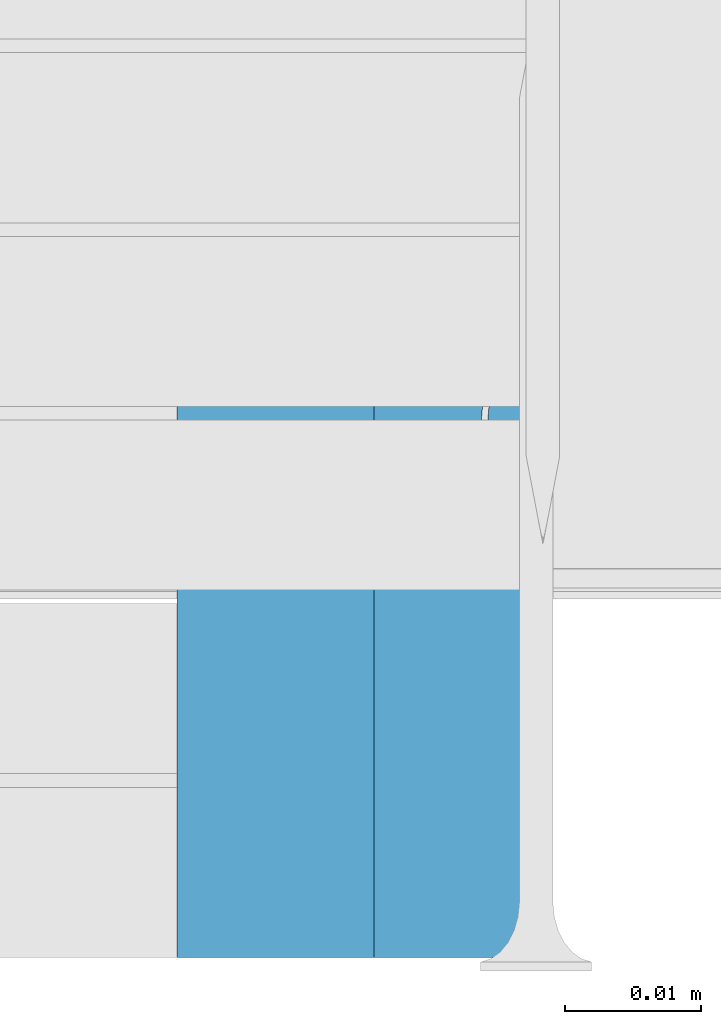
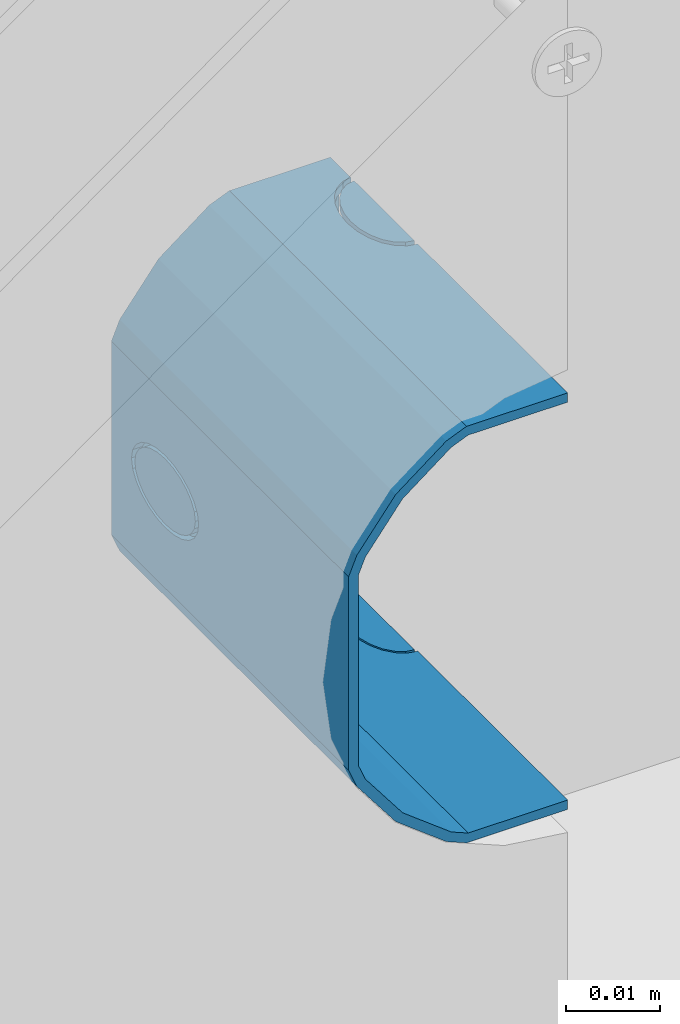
# One storey, part 26 of 32: 1 wall.
"""IFC2X3 building model written with IfcOpenShell, lengths in millimetres."""

from ifc_helpers import new_model, entity, si_unit, converted_unit, direction, frame, origin, origin_with_axes, place, context, project, spatial, faceted_brep, element, save


model = new_model("IFC2X3")

# Units and contexts
model_context = context("Model", 3, precision=1e-05, world=origin(), true_north=direction((0.0, 1.0, 0.0)))
ifc_project = project(units=[si_unit("LENGTHUNIT", "METRE", prefix="MILLI"), si_unit("AREAUNIT", "SQUARE_METRE"), si_unit("VOLUMEUNIT", "CUBIC_METRE"), converted_unit("PLANEANGLEUNIT", "DEGREE", entity("IfcPlaneAngleMeasure", 0.01745), si_unit("PLANEANGLEUNIT", "RADIAN"), dimensions=[0, 0, 0, 0, 0, 0, 0]), si_unit("SOLIDANGLEUNIT", "STERADIAN"), si_unit("MASSUNIT", "GRAM"), si_unit("TIMEUNIT", "SECOND"), si_unit("THERMODYNAMICTEMPERATUREUNIT", "DEGREE_CELSIUS"), si_unit("LUMINOUSINTENSITYUNIT", "LUMEN")], contexts=[model_context])

# Site, building, storey
site_placement = place(None, origin_with_axes())
site = spatial("IfcSite", under=ifc_project, at=site_placement, Name="Default Site", CompositionType="ELEMENT")
building_placement = place(site_placement, origin_with_axes())
building = spatial("IfcBuilding", under=site, at=building_placement, Name="Default Building", CompositionType="ELEMENT")
storey_placement = place(building_placement, origin_with_axes())
storey = spatial("IfcBuildingStorey", under=building, at=storey_placement, Name="Default Building Storey", CompositionType="ELEMENT", Elevation=0.0)

# Wall
wall_placement = place(storey_placement, frame((3160.241892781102, 1920.791292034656, 275.3970688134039), z_axis=(0.0, 0.0, 1.0), x_axis=(1.0, 0.0, 0.0)))
element("IfcWall", 1, at=wall_placement, inside=storey, Name="PUSZKA", context=model_context, shape_type="Brep", body=[
    faceted_brep([(1.443822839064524e-11, 42.19098750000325, 23.34645532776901), (1.443822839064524e-11, 43.5225546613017, 24.01689326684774), (0.9375000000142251, 43.5225546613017, 24.01689326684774), (0.9375000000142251, 42.19098750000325, 23.34645532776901), (26.88214114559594, 46.09640298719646, 0.0), (26.88214114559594, 50.40630000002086, 0.0), (26.88214114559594, 50.40630000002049, 19.51551641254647), (26.88214114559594, 48.57750000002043, 19.51551641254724), (26.88214114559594, 48.57750000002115, 1.200000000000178), (26.88214114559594, 46.09640298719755, 1.200000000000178), (26.88214114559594, 46.09640298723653, 52.79999999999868), (26.88214114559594, 48.57750000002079, 52.79999999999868), (26.88214114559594, 48.57750000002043, 34.48448358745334), (26.88214114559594, 50.40630000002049, 34.48448358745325), (26.88214114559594, 50.40630000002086, 53.99999999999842), (26.88214114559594, 46.09640298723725, 53.99999999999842), (1.443822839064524e-11, 35.76161250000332, 23.34645532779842), (1.443822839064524e-11, 37.31225530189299, 22.92500042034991), (0.9375000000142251, 37.31225530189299, 22.92500042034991), (0.9375000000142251, 35.76161250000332, 23.34645532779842), (26.88214114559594, 48.97755000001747, 19.98426641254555), (26.88214114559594, 50.40630000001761, 19.98426641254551), (26.88214114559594, 50.40630000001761, 34.01573358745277), (26.88214114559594, 48.97755000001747, 34.01573358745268), (26.88214114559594, 31.85619701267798, 53.99999999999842), (26.88214114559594, 2.093543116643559e-11, 53.99999999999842), (26.88214114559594, 2.093543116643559e-11, 52.79999999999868), (26.88214114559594, 31.85619701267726, 52.79999999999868), (26.88214114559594, 31.85619701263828, 1.200000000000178), (26.88214114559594, 2.093543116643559e-11, 1.200000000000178), (26.88214114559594, 2.093543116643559e-11, 0.0), (26.88214114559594, 31.8561970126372, 0.0), (22.78125000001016, 38.97629999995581, 0.9374999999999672), (22.92500042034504, 40.6403446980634, 0.9374999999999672), (22.92500042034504, 40.6403446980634, 0.0), (22.78125000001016, 38.97629999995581, 0.0), (26.88214114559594, 45.38202798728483, 0.9374999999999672), (26.88214114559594, 32.57057201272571, 0.9374999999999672), (26.88214114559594, 32.57057201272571, 0.0), (26.88214114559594, 45.38202798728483, 0.0), (1.443822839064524e-11, 37.31225530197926, 31.07499957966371), (1.443822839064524e-11, 38.97630000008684, 31.21874999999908), (1.443822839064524e-11, 40.64034469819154, 31.07499957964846), (1.443822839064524e-11, 42.19098750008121, 30.65354467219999), (1.443822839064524e-11, 43.52255466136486, 29.98310673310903), (1.443822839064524e-11, 44.54430208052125, 29.10937499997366), (1.443822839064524e-11, 45.18659935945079, 28.09189284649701), (1.443822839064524e-11, 45.40567500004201, 26.99999999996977), (1.443822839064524e-11, 45.18659935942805, 25.90810715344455), (1.443822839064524e-11, 44.54430208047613, 24.89062499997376), (1.443822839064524e-11, 40.64034469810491, 22.9250004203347), (1.443822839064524e-11, 38.97629999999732, 22.78124999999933), (1.443822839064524e-11, 34.4300453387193, 24.01689326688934), (1.443822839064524e-11, 33.40829791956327, 24.89062500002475), (1.443822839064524e-11, 32.76600064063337, 25.9081071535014), (1.443822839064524e-11, 32.54692500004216, 27.0000000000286), (1.443822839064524e-11, 32.76600064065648, 28.09189284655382), (1.443822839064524e-11, 33.40829791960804, 29.1093750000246), (1.443822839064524e-11, 34.43004533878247, 29.98310673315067), (1.443822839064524e-11, 35.76161250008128, 30.6535446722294), (0.9375000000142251, 33.40829791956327, 24.89062500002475), (0.9375000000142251, 32.76600064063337, 25.9081071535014), (26.88214114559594, 32.57057201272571, 53.06250000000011), (26.88214114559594, 45.38202798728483, 53.06250000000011), (26.88214114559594, 45.38202798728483, 54.00000000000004), (26.88214114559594, 32.57057201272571, 54.00000000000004), (23.34645532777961, 42.19098749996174, 0.9374999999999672), (24.01689326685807, 43.52255466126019, 0.9374999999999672), (24.01689326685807, 43.52255466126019, 0.0), (23.34645532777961, 42.19098749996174, 0.0), (1.263344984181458e-11, 38.97629999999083, 31.68749999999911), (1.200000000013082, 38.9762999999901, 31.68749999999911), (1.200000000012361, 37.12736144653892, 31.52777731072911), (1.227249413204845e-11, 37.12736144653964, 31.52777731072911), (22.78125000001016, 38.97629999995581, 54.00000000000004), (22.92500042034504, 40.6403446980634, 54.00000000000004), (22.92500042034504, 40.6403446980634, 53.06250000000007), (22.78125000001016, 38.97629999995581, 53.06250000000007), (0.9375000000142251, 34.43004533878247, 29.98310673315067), (0.9375000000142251, 35.76161250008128, 30.6535446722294), (1.200000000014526, 44.02769406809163, 30.31456303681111), (1.443822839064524e-11, 44.02769406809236, 30.31456303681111), (1.479918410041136e-11, 45.16296897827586, 29.34374999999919), (1.200000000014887, 45.16296897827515, 29.34374999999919), (25.90810715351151, 32.76600064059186, 0.9374999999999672), (25.90810715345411, 45.18659935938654, 0.9374999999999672), (24.89062499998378, 44.54430208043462, 0.9374999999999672), (22.92500042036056, 37.31225530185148, 0.9374999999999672), (23.34645532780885, 35.76161249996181, 0.9374999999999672), (24.01689326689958, 34.43004533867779, 0.9374999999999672), (24.89062500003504, 33.40829791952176, 0.9374999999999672), (0.9375000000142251, 40.64034469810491, 22.9250004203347), (0.9375000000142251, 38.97629999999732, 22.78124999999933), (25.90810715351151, 32.76600064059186, 0.0), (0.9375000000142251, 45.18659935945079, 28.09189284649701), (0.9375000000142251, 45.40567500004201, 26.99999999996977), (0.9375000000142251, 40.64034469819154, 31.07499957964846), (0.9375000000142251, 42.19098750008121, 30.65354467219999), (1.479918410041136e-11, 45.16296897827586, 24.65624999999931), (1.200000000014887, 45.1629689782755, 24.65624999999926), (1.200000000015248, 45.87663262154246, 25.78678572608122), (1.479918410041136e-11, 45.87663262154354, 25.78678572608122), (0.9375000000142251, 33.40829791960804, 29.1093750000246), (0.9375000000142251, 44.54430208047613, 24.89062499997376), (0.9375000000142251, 32.54692500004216, 27.0000000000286), (24.89062499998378, 44.54430208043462, 0.0), (0.9375000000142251, 32.76600064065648, 28.09189284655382), (25.90810715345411, 45.18659935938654, 0.0), (0.9375000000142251, 37.31225530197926, 31.07499957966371), (0.9375000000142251, 38.97630000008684, 31.21874999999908), (23.34645532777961, 42.19098749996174, 54.00000000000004), (23.34645532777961, 42.19098749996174, 53.06250000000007), (0.9375000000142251, 34.4300453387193, 24.01689326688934), (23.34645532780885, 35.76161249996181, 0.0), (24.01689326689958, 34.43004533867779, 0.0), (24.89062500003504, 33.40829791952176, 0.0), (22.92500042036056, 37.31225530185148, 0.0), (25.78678572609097, 32.0759673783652, 1.200000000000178), (25.78678572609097, 32.07596737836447, 0.0), (1.200000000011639, 35.40442499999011, 31.05949408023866), (1.155058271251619e-11, 35.40442499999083, 31.05949408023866), (1.046771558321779e-11, 32.07596737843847, 25.78678572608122), (1.200000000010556, 32.07596737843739, 25.78678572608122), (1.200000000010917, 32.78963102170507, 24.65624999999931), (1.082867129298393e-11, 32.78963102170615, 24.65624999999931), (1.082867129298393e-11, 32.78963102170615, 29.34374999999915), (1.200000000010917, 32.78963102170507, 29.34374999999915), (1.200000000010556, 32.07596737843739, 28.21321427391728), (1.046771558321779e-11, 32.07596737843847, 28.21321427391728), (24.65625000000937, 32.78963102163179, 0.0), (24.65625000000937, 32.78963102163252, 1.200000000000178), (25.78678572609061, 45.87663262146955, 0.0), (25.78678572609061, 45.87663262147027, 1.200000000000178), (25.90810715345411, 45.18659935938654, 54.00000000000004), (25.90810715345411, 45.18659935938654, 53.06250000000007), (22.94050591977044, 42.54817499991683, 0.0), (22.94050591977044, 42.54817499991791, 1.200000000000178), (22.47222268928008, 40.82523855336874, 1.200000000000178), (22.47222268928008, 40.82523855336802, 0.0), (0.9375000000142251, 45.18659935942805, 25.90810715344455), (22.31250000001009, 38.97629999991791, 1.200000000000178), (22.31250000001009, 38.97629999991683, 0.0), (0.9375000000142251, 44.54430208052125, 29.10937499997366), (0.9375000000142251, 43.52255466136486, 29.98310673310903), (1.371631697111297e-11, 42.54817499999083, 31.05949408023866), (1.200000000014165, 42.5481749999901, 31.05949408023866), (1.200000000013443, 40.8252385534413, 31.52777731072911), (1.335536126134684e-11, 40.82523855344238, 31.52777731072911), (24.89062499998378, 44.54430208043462, 54.00000000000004), (24.89062499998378, 44.54430208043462, 53.06250000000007), (24.01689326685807, 43.52255466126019, 54.00000000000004), (24.01689326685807, 43.52255466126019, 53.06250000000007), (1.118962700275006e-11, 33.92490593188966, 30.31456303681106), (1.200000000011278, 33.92490593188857, 30.31456303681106), (1.335536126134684e-11, 40.82523855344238, 22.47222268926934), (1.200000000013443, 40.8252385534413, 22.47222268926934), (1.200000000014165, 42.5481749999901, 22.94050591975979), (1.371631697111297e-11, 42.54817499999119, 22.94050591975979), (24.89062500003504, 33.40829791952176, 54.00000000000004), (24.01689326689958, 34.43004533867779, 54.00000000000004), (24.01689326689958, 34.43004533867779, 53.06250000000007), (24.89062500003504, 33.40829791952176, 53.06250000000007), (1.155058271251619e-11, 35.40442499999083, 22.94050591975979), (1.200000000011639, 35.40442499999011, 22.94050591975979), (1.200000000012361, 37.12736144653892, 22.47222268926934), (1.227249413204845e-11, 37.12736144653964, 22.47222268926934), (25.90810715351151, 32.76600064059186, 54.00000000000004), (22.92500042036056, 37.31225530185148, 54.00000000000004), (23.34645532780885, 35.76161249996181, 54.00000000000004), (1.200000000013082, 38.9762999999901, 22.31249999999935), (1.263344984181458e-11, 38.97629999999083, 22.31249999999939), (1.479918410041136e-11, 45.87663262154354, 28.21321427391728), (1.200000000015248, 45.87663262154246, 28.21321427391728), (22.92500042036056, 37.31225530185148, 53.06250000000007), (23.34645532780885, 35.76161249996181, 53.06250000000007), (1.443822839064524e-11, 44.02769406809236, 23.6854369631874), (1.200000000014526, 44.02769406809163, 23.6854369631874), (24.65625000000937, 45.16296897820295, 1.200000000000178), (24.65625000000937, 45.16296897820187, 0.0), (1.200000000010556, 31.8325499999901, 26.99999999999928), (1.046771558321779e-11, 31.83254999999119, 26.99999999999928), (22.47222268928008, 37.12736144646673, 1.200000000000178), (22.47222268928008, 37.12736144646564, 0.0), (1.200000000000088, 4.006608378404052e-11, 39.32747401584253), (1.200000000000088, 4.006608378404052e-11, 14.67252598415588), (1.200000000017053, 48.57750000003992, 14.67252598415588), (1.200000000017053, 48.57750000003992, 39.32747401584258), (1.200000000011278, 33.92490593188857, 23.6854369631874), (1.200000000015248, 46.1200499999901, 26.99999999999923), (1.479918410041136e-11, 46.12004999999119, 26.99999999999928), (21.69669914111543, 48.5775000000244, 21.69669914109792), (21.69669914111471, 50.40630000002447, 21.69669914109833), (20.50480947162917, 50.40630000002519, 23.24999999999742), (20.50480947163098, 48.57750000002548, 23.24999999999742), (22.94050591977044, 42.5481749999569, 52.79999999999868), (22.94050591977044, 42.54817499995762, 53.99999999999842), (22.47222268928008, 40.82523855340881, 53.99999999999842), (22.47222268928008, 40.82523855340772, 52.79999999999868), (21.69669914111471, 50.40630000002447, 32.30330085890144), (21.6966991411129, 48.5775000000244, 32.30330085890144), (20.50480947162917, 48.57750000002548, 30.75000000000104), (20.50480947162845, 50.40630000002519, 30.75000000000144), (25.05885716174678, 50.40630000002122, 34.24444369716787), (25.05885716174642, 48.57750000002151, 34.24444369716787), (5.786796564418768, 50.40630000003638, 5.786796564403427), (11.76442622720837, 50.40630000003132, 1.200000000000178), (12.00000000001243, 50.40630000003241, 1.019237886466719), (11.99999999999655, 3.248601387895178e-11, 1.019237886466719), (11.76442622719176, 3.140314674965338e-11, 1.200000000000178), (5.786796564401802, 3.645652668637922e-11, 5.786796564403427), (14.67252598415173, 3.068123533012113e-11, 52.79999999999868), (14.46065792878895, 2.995932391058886e-11, 53.99999999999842), (11.99999999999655, 3.248601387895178e-11, 52.9807621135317), (11.76442622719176, 3.140314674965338e-11, 52.79999999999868), (5.786796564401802, 3.645652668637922e-11, 48.21320343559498), (1.200000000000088, 4.006608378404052e-11, 42.23557377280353), (1.01923788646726, 3.97051280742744e-11, 41.99999999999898), (0.0, 4.150990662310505e-11, 39.53934207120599), (0.0, 4.150990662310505e-11, 14.46065792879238), (1.01923788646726, 3.97051280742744e-11, 11.99999999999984), (1.200000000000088, 4.006608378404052e-11, 11.76442622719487), (14.46065792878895, 2.995932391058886e-11, 0.0), (14.67252598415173, 3.068123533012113e-11, 1.200000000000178), (12.59999999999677, 3.104219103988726e-11, 2.058468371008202), (6.635324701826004, 3.573461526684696e-11, 6.635324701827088), (2.058468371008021, 3.934417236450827e-11, 12.59999999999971), (2.058468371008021, 3.934417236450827e-11, 41.39999999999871), (6.635324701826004, 3.573461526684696e-11, 47.36467529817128), (12.59999999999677, 3.104219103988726e-11, 51.94153162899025), (22.31250000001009, 38.97629999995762, 53.99999999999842), (22.31250000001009, 38.97629999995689, 52.79999999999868), (6.635324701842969, 48.57750000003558, 47.36467529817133), (12.60000000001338, 48.57750000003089, 51.94153162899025), (23.25000000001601, 50.40630000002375, 20.50480947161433), (23.2500000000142, 48.57750000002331, 20.50480947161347), (25.05885716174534, 48.57750000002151, 19.75555630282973), (25.05885716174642, 50.40630000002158, 19.75555630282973), (6.635324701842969, 48.57750000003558, 6.635324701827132), (2.058468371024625, 48.57750000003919, 12.59999999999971), (23.68543696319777, 44.027694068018, 0.0), (23.68543696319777, 44.02769406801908, 1.200000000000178), (22.94050591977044, 35.40442499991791, 1.200000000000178), (22.94050591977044, 35.40442499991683, 0.0), (1.019237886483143, 50.40630000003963, 11.99999999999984), (1.200000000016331, 50.40630000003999, 11.76442622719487), (12.60000000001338, 48.57750000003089, 2.058468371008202), (2.058468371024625, 48.57750000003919, 41.39999999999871), (23.25000000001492, 48.57750000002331, 33.49519052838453), (23.25000000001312, 50.40630000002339, 33.4951905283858), (24.65625000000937, 32.7896310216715, 52.79999999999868), (24.65625000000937, 32.78963102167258, 53.99999999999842), (25.78678572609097, 32.0759673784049, 53.99999999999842), (25.78678572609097, 32.07596737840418, 52.79999999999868), (14.67252598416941, 48.57750000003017, 52.79999999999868), (23.68543696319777, 33.92490593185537, 52.79999999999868), (23.68543696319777, 33.92490593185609, 53.99999999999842), (19.75555630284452, 50.40630000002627, 25.05885716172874), (19.75555630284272, 48.57750000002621, 25.05885716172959), (14.46065792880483, 50.40630000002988, 0.0), (23.68543696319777, 33.92490593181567, 0.0), (24.65625000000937, 45.16296897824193, 52.79999999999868), (24.65625000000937, 45.16296897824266, 53.99999999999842), (23.68543696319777, 44.02769406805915, 53.99999999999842), (23.68543696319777, 44.02769406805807, 52.79999999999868), (19.75555630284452, 48.57750000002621, 28.94114283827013), (19.75555630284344, 50.40630000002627, 28.94114283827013), (25.90810715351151, 32.76600064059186, 53.06250000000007), (19.50000000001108, 50.40630000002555, 26.9999999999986), (19.50000000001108, 48.57750000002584, 26.9999999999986), (25.78678572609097, 45.87663262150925, 52.79999999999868), (22.47222268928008, 37.12736144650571, 52.79999999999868), (22.94050591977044, 35.40442499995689, 52.79999999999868), (1.118962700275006e-11, 33.92490593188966, 23.6854369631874), (25.78678572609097, 45.87663262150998, 53.99999999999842), (14.67252598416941, 48.57750000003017, 1.200000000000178), (1.696491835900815e-11, 50.40630000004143, 39.53934207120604), (1.696491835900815e-11, 50.40630000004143, 14.46065792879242), (22.47222268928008, 37.12736144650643, 53.99999999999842), (22.94050591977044, 35.40442499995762, 53.99999999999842), (1.019237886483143, 50.40630000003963, 41.99999999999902), (1.200000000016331, 50.40630000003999, 42.23557377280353), (5.786796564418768, 50.40630000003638, 48.21320343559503), (11.76442622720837, 50.40630000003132, 52.79999999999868), (12.00000000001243, 50.40630000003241, 52.98076211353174), (14.46065792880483, 50.40630000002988, 53.99999999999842), (23.68543696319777, 33.92490593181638, 1.200000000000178), (22.02815544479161, 48.97755000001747, 22.02815544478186), (20.91075887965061, 48.97755000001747, 23.48437499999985), (20.91075887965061, 50.40630000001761, 23.48437499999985), (22.02815544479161, 50.40630000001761, 22.02815544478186), (20.20833403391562, 48.97755000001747, 28.81982141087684), (20.91075887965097, 48.97755000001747, 30.51562499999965), (20.91075887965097, 50.40630000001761, 30.51562499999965), (20.20833403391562, 50.40630000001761, 28.81982141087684), (19.96875000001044, 48.97755000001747, 26.99999999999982), (19.96875000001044, 50.40630000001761, 26.99999999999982), (25.18017858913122, 48.97755000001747, 20.20833403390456), (23.48437500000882, 48.97755000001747, 20.91075887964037), (23.48437500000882, 50.40630000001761, 20.91075887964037), (25.18017858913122, 50.40630000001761, 20.20833403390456), (22.02815544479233, 48.97755000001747, 31.97184455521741), (23.48437500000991, 48.97755000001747, 33.08924112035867), (23.48437500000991, 50.40630000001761, 33.08924112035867), (22.02815544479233, 50.40630000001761, 31.97184455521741), (25.18017858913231, 50.40630000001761, 33.79166596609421), (20.20833403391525, 50.40630000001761, 25.18017858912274), (20.20833403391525, 48.97755000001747, 25.18017858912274), (25.18017858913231, 48.97755000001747, 33.79166596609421)], [[[0, 1, 2, 3]], [[4, 5, 6, 7, 8, 9]], [[10, 11, 12, 13, 14, 15]], [[16, 17, 18, 19]], [[20, 21, 22, 23]], [[24, 25, 26, 27]], [[28, 29, 30, 31]], [[32, 33, 34, 35]], [[36, 37, 38, 39]], [[40, 41, 42, 43, 44, 45, 46, 47, 48, 49, 1, 0, 50, 51, 17, 16, 52, 53, 54, 55, 56, 57, 58, 59]], [[54, 53, 60, 61]], [[62, 63, 64, 65]], [[66, 67, 68, 69]], [[70, 71, 72, 73]], [[74, 75, 76, 77]], [[59, 58, 78, 79]], [[80, 81, 82, 83]], [[84, 37, 36, 85, 86, 67, 66, 33, 32, 87, 88, 89, 90]], [[51, 50, 91, 92]], [[93, 38, 37, 84]], [[47, 46, 94, 95]], [[43, 42, 96, 97]], [[98, 99, 100, 101]], [[58, 57, 102, 78]], [[1, 49, 103, 2]], [[55, 54, 61, 104]], [[67, 86, 105, 68]], [[56, 55, 104, 106]], [[86, 85, 107, 105]], [[41, 40, 108, 109]], [[85, 36, 39, 107]], [[75, 110, 111, 76]], [[52, 16, 19, 112]], [[89, 88, 113, 114]], [[107, 39, 38, 93, 115, 114, 113, 116, 35, 34, 69, 68, 105]], [[117, 28, 31, 118]], [[73, 72, 119, 120]], [[121, 122, 123, 124]], [[87, 32, 35, 116]], [[125, 126, 127, 128]], [[117, 118, 129, 130]], [[131, 4, 9, 132]], [[133, 64, 63, 134]], [[84, 90, 115, 93]], [[17, 51, 92, 18]], [[135, 136, 137, 138]], [[48, 47, 95, 139]], [[140, 141, 138, 137]], [[46, 45, 142, 94]], [[109, 108, 79, 78, 102, 106, 104, 61, 60, 112, 19, 18, 92, 91, 3, 2, 103, 139, 95, 94, 142, 143, 97, 96]], [[144, 145, 146, 147]], [[148, 133, 134, 149]], [[110, 150, 151, 111]], [[152, 153, 126, 125]], [[150, 148, 149, 151]], [[154, 155, 156, 157]], [[158, 159, 160, 161]], [[53, 52, 112, 60]], [[162, 163, 164, 165]], [[90, 89, 114, 115]], [[49, 48, 139, 103]], [[42, 41, 109, 96]], [[40, 59, 79, 108]], [[45, 44, 143, 142]], [[166, 65, 64, 133, 148, 150, 110, 75, 74, 167, 168, 159, 158]], [[44, 43, 97, 143]], [[88, 87, 116, 113]], [[33, 66, 69, 34]], [[165, 164, 169, 170]], [[147, 146, 71, 70]], [[83, 82, 171, 172]], [[168, 167, 173, 174]], [[175, 176, 99, 98]], [[50, 0, 3, 91]], [[57, 56, 106, 102]], [[131, 132, 177, 178]], [[128, 127, 179, 180]], [[180, 179, 122, 121]], [[181, 182, 141, 140]], [[183, 184, 185, 186], [163, 187, 123, 122, 179, 127, 126, 153, 119, 72, 71, 146, 145, 80, 83, 172, 188, 100, 99, 176, 156, 155, 169, 164]], [[188, 189, 101, 100]], [[190, 191, 192, 193]], [[194, 195, 196, 197]], [[198, 199, 200, 201]], [[202, 13, 12, 203]], [[204, 205, 206, 207, 208, 209]], [[210, 26, 25, 211, 212, 213, 214, 215, 216, 217, 218, 219, 220, 209, 208, 207, 221, 30, 29, 222, 223, 224, 225, 184, 183, 226, 227, 228]], [[197, 196, 229, 230]], [[228, 227, 231, 232]], [[233, 234, 235, 236]], [[225, 224, 237, 238]], [[136, 135, 239, 240]], [[241, 242, 182, 181]], [[184, 225, 238, 185]], [[243, 244, 204, 209, 220, 219]], [[224, 223, 245, 237]], [[157, 156, 176, 175]], [[227, 226, 246, 231]], [[159, 168, 174, 160]], [[172, 171, 189, 188]], [[202, 203, 247, 248]], [[249, 250, 251, 252]], [[210, 228, 232, 253]], [[254, 255, 250, 249]], [[256, 257, 193, 192]], [[258, 5, 4, 131, 178, 239, 135, 138, 141, 182, 242, 259, 129, 118, 31, 30, 221]], [[260, 261, 262, 263]], [[201, 200, 264, 265]], [[134, 63, 62, 266, 161, 160, 174, 173, 77, 76, 111, 151, 149]], [[267, 268, 257, 256]], [[253, 11, 10, 269, 260, 263, 194, 197, 230, 270, 271, 254, 249, 252, 27, 26, 210]], [[248, 247, 199, 198]], [[266, 62, 65, 166]], [[120, 119, 153, 152]], [[226, 183, 186, 246]], [[124, 123, 187, 272]], [[269, 10, 15, 273]], [[272, 187, 163, 162]], [[223, 222, 274, 245]], [[218, 217, 275, 276], [124, 272, 162, 165, 170, 154, 157, 175, 98, 101, 189, 171, 82, 81, 144, 147, 70, 73, 120, 152, 125, 128, 180, 121]], [[263, 262, 195, 194]], [[265, 264, 268, 267]], [[270, 277, 278, 271]], [[230, 229, 277, 270]], [[236, 6, 5, 258, 206, 205, 204, 244, 243, 276, 275, 279, 280, 281, 282, 283, 284, 14, 13, 202, 248, 198, 201, 265, 267, 256, 192, 191, 233]], [[219, 218, 276, 243]], [[251, 24, 27, 252]], [[167, 74, 77, 173]], [[240, 239, 178, 177]], [[217, 216, 279, 275]], [[132, 9, 8, 274, 222, 29, 28, 117, 130, 285, 241, 181, 140, 137, 136, 240, 177]], [[81, 80, 145, 144]], [[274, 8, 7, 235, 234, 190, 193, 257, 268, 264, 200, 199, 247, 203, 12, 11, 253, 232, 231, 246, 186, 185, 238, 237, 245]], [[170, 169, 155, 154]], [[255, 254, 271, 278]], [[221, 207, 206, 258]], [[261, 260, 269, 273]], [[235, 7, 6, 236]], [[130, 129, 259, 285]], [[166, 158, 161, 266]], [[242, 241, 285, 259]], [[286, 287, 288, 289]], [[290, 291, 292, 293]], [[294, 290, 293, 295]], [[273, 15, 14, 284, 211, 25, 24, 251, 250, 255, 278, 277, 229, 196, 195, 262, 261]], [[296, 297, 298, 299]], [[300, 301, 302, 303]], [[304, 22, 21, 299, 298, 289, 288, 305, 295, 293, 292, 303, 302]], [[212, 211, 284, 283]], [[283, 282, 281, 214, 213, 212]], [[306, 294, 295, 305]], [[234, 233, 191, 190]], [[291, 300, 303, 292]], [[297, 286, 289, 298]], [[296, 20, 23, 307, 301, 300, 291, 290, 294, 306, 287, 286, 297]], [[299, 21, 20, 296]], [[307, 23, 22, 304]], [[287, 306, 305, 288]], [[301, 307, 304, 302]], [[281, 280, 279, 216, 215, 214]]]),
])

save(model, "model.ifc")
